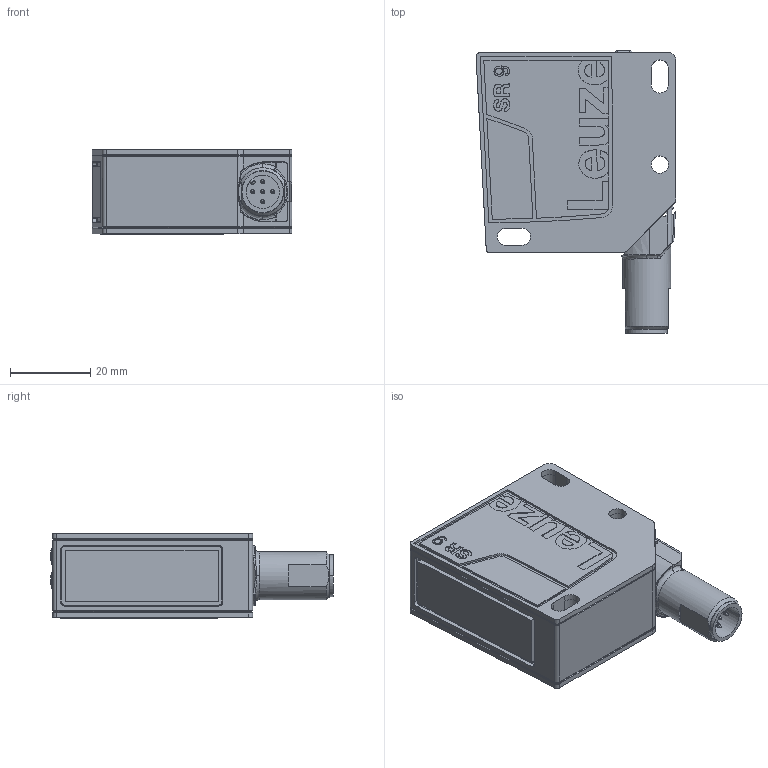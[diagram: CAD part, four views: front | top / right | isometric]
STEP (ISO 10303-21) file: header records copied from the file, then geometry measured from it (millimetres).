
FILE_DESCRIPTION(/* description */ (''),/* implementation_level */ '2;1');
FILE_NAME(/* name */ '3DCAD_ODSL9_Stecker_unten.stp',/* time_stamp */ '2017-11-10T09:40:08+01:00',/* author */ ('CC2'),/* organization */ ('Leuze electronic'),/* preprocessor_version */ 'ST-DEVELOPER v16',/* originating_system */ 'SIEMENS PLM Software NX 11.0',/* authorisation */ '');
FILE_SCHEMA (('AUTOMOTIVE_DESIGN { 1 0 10303 214 3 1 1 1 }'));
Length unit declared in the file: millimetre
Products named in the file (1): 17-103705_00.0_1-3DCAD_ODSL9_Stecker_unten
Bounding box: 49.96 x 70.51 x 21.1 mm (x, y, z)
Volume: 49956.8 mm3; surface area: 11894.8 mm2
Topology: 1 solids, 2 shells, 741 faces, 1927 edges, 1251 vertices
Faces by surface type: plane 388, extrusion 149, cylinder 122, cone 24, bspline 23, torus 21, revolution 14
Full cylindrical faces by diameter (mm): 4.3 x2, 12 x1
Entity records: 33253 total; most frequent: CARTESIAN_POINT 11748, ORIENTED_EDGE 3830, DIRECTION 3130, EDGE_CURVE 1915, VECTOR 1364, VERTEX_POINT 1248, LINE 1215, AXIS2_PLACEMENT_3D 876
